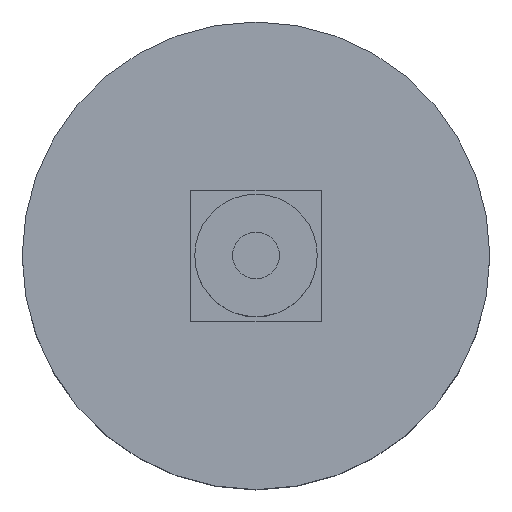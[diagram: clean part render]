
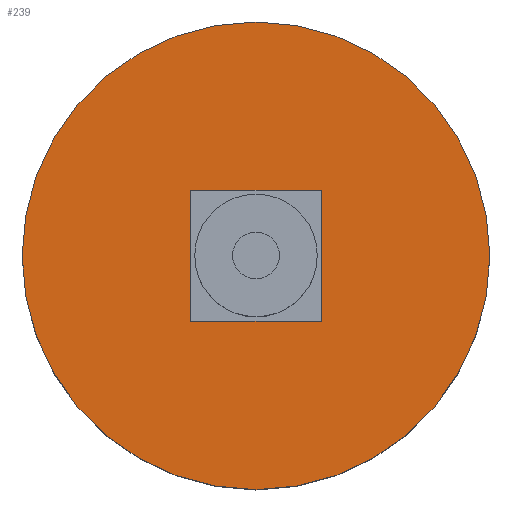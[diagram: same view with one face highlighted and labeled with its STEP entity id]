
A CAD part, top view. The second image highlights one B-rep face of the part: STEP entity #239.
In plain terms, the highlighted planar face has unit normal (0, 0, 1).
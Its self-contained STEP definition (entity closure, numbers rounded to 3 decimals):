
#1 = DIRECTION ( 'NONE',  ( 1., 0., 0. ) ) ;
#5 = EDGE_CURVE ( 'NONE', #280, #126, #183, .T. ) ;
#32 = EDGE_CURVE ( 'NONE', #174, #283, #179, .T. ) ;
#42 = DIRECTION ( 'NONE',  ( 0., 0., 1. ) ) ;
#72 = CARTESIAN_POINT ( 'NONE',  ( 0., 0., 26. ) ) ;
#78 = FACE_BOUND ( 'NONE', #357, .T. ) ;
#79 = FACE_OUTER_BOUND ( 'NONE', #310, .T. ) ;
#80 = EDGE_CURVE ( 'NONE', #156, #174, #375, .T. ) ;
#88 = CARTESIAN_POINT ( 'NONE',  ( -7., 7., 26. ) ) ;
#109 = CARTESIAN_POINT ( 'NONE',  ( -7., -7., 26. ) ) ;
#110 = AXIS2_PLACEMENT_3D ( 'NONE', #462, #42, #272 ) ;
#111 = ORIENTED_EDGE ( 'NONE', *, *, #80, .F. ) ;
#114 = AXIS2_PLACEMENT_3D ( 'NONE', #124, #472, #420 ) ;
#124 = CARTESIAN_POINT ( 'NONE',  ( 0., 0., 26. ) ) ;
#126 = VERTEX_POINT ( 'NONE', #483 ) ;
#149 = CARTESIAN_POINT ( 'NONE',  ( -7., 7., 26. ) ) ;
#153 = LINE ( 'NONE', #109, #238 ) ;
#156 = VERTEX_POINT ( 'NONE', #486 ) ;
#158 = CARTESIAN_POINT ( 'NONE',  ( 7., 7., 26. ) ) ;
#174 = VERTEX_POINT ( 'NONE', #158 ) ;
#179 = LINE ( 'NONE', #295, #365 ) ;
#182 = CARTESIAN_POINT ( 'NONE',  ( 25., 0., 26. ) ) ;
#183 = CIRCLE ( 'NONE', #293, 25. ) ;
#193 = DIRECTION ( 'NONE',  ( 0., 0., 1. ) ) ;
#194 = EDGE_CURVE ( 'NONE', #474, #156, #153, .T. ) ;
#237 = ORIENTED_EDGE ( 'NONE', *, *, #32, .F. ) ;
#238 = VECTOR ( 'NONE', #488, 1000. ) ;
#239 = ADVANCED_FACE ( 'NONE', ( #78, #79 ), #321, .T. ) ;
#272 = DIRECTION ( 'NONE',  ( 1., 0., 0. ) ) ;
#280 = VERTEX_POINT ( 'NONE', #182 ) ;
#283 = VERTEX_POINT ( 'NONE', #88 ) ;
#293 = AXIS2_PLACEMENT_3D ( 'NONE', #72, #193, #1 ) ;
#295 = CARTESIAN_POINT ( 'NONE',  ( -7., 7., 26. ) ) ;
#307 = DIRECTION ( 'NONE',  ( 0., -1., 0. ) ) ;
#310 = EDGE_LOOP ( 'NONE', ( #464, #397 ) ) ;
#319 = EDGE_CURVE ( 'NONE', #126, #280, #390, .T. ) ;
#321 = PLANE ( 'NONE',  #110 ) ;
#326 = EDGE_CURVE ( 'NONE', #283, #474, #354, .T. ) ;
#329 = DIRECTION ( 'NONE',  ( 0., 1., 0. ) ) ;
#335 = ORIENTED_EDGE ( 'NONE', *, *, #326, .F. ) ;
#351 = VECTOR ( 'NONE', #329, 1000. ) ;
#354 = LINE ( 'NONE', #149, #389 ) ;
#357 = EDGE_LOOP ( 'NONE', ( #111, #416, #335, #237 ) ) ;
#365 = VECTOR ( 'NONE', #442, 1000. ) ;
#370 = CARTESIAN_POINT ( 'NONE',  ( 7., 7., 26. ) ) ;
#375 = LINE ( 'NONE', #370, #351 ) ;
#389 = VECTOR ( 'NONE', #307, 1000. ) ;
#390 = CIRCLE ( 'NONE', #114, 25. ) ;
#397 = ORIENTED_EDGE ( 'NONE', *, *, #5, .T. ) ;
#416 = ORIENTED_EDGE ( 'NONE', *, *, #194, .F. ) ;
#420 = DIRECTION ( 'NONE',  ( 1., 0., 0. ) ) ;
#427 = CARTESIAN_POINT ( 'NONE',  ( -7., -7., 26. ) ) ;
#442 = DIRECTION ( 'NONE',  ( -1., 0., 0. ) ) ;
#462 = CARTESIAN_POINT ( 'NONE',  ( 0., 0., 26. ) ) ;
#464 = ORIENTED_EDGE ( 'NONE', *, *, #319, .T. ) ;
#472 = DIRECTION ( 'NONE',  ( 0., 0., 1. ) ) ;
#474 = VERTEX_POINT ( 'NONE', #427 ) ;
#483 = CARTESIAN_POINT ( 'NONE',  ( -25., 0., 26. ) ) ;
#486 = CARTESIAN_POINT ( 'NONE',  ( 7., -7., 26. ) ) ;
#488 = DIRECTION ( 'NONE',  ( 1., 0., 0. ) ) ;
